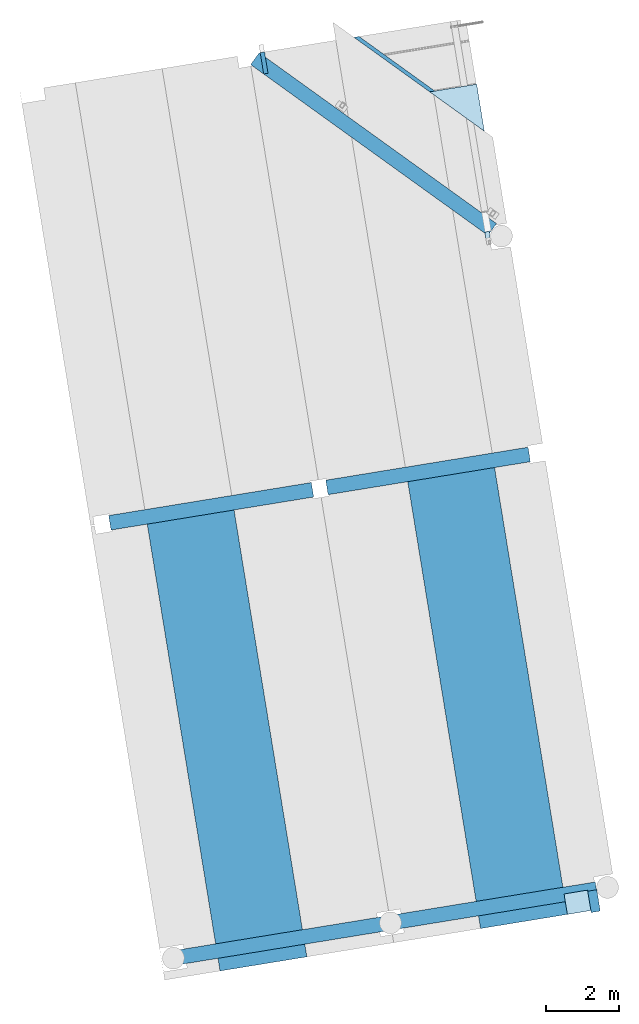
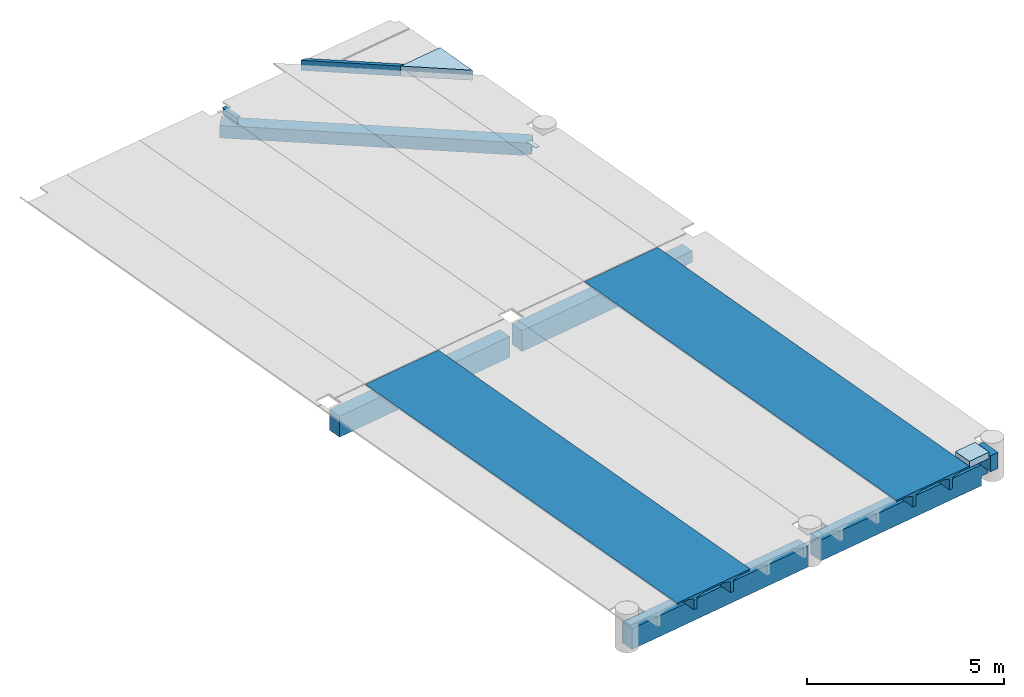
# One storey, part 3 of 5: 10 beams, 2 slabs, 1 plate.
"""IFC2X3 building model written with IfcOpenShell, lengths in millimetres."""

from ifc_helpers import new_model, entity, si_unit, converted_unit, derived_unit, direction, frame, frame_2d, origin, origin_with_axes, origin_2d_with_axis, place, context, subcontext, project, spatial, polyline, rectangle, outline, extrude, faceted_brep, material, type_object, element, save


model = new_model("IFC2X3")

# Units and contexts
model_context = context("Model", 3, precision=0.01, world=origin(), true_north=direction((6.12323399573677e-17, 1.0)))
plan_context = context("Plan", 3, precision=1e-05, world=origin_with_axes())
body_context = subcontext(model_context, "Body", "Model", "MODEL_VIEW")
ifc_project = project(units=[converted_unit("PLANEANGLEUNIT", "DEGREE", entity("IfcPositiveLengthMeasure", 0.0174532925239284), si_unit("PLANEANGLEUNIT", "RADIAN"), dimensions=[0, 0, 0, 0, 0, 0, 0]), si_unit("AREAUNIT", "SQUARE_METRE"), si_unit("LENGTHUNIT", "METRE", prefix="MILLI"), si_unit("MASSUNIT", "GRAM", prefix="KILO"), si_unit("POWERUNIT", "WATT"), si_unit("PRESSUREUNIT", "PASCAL", prefix="KILO"), si_unit("FORCEUNIT", "NEWTON", prefix="KILO"), si_unit("ELECTRICVOLTAGEUNIT", "VOLT"), si_unit("ELECTRICCURRENTUNIT", "AMPERE"), si_unit("THERMODYNAMICTEMPERATUREUNIT", "DEGREE_CELSIUS"), si_unit("TIMEUNIT", "SECOND"), si_unit("VOLUMEUNIT", "CUBIC_METRE"), derived_unit("LINEARVELOCITYUNIT", [(si_unit("LENGTHUNIT", "METRE"), 1), (si_unit("TIMEUNIT", "SECOND"), -1)]), derived_unit("VOLUMETRICFLOWRATEUNIT", [(si_unit("VOLUMEUNIT", "CUBIC_METRE"), 1), (si_unit("TIMEUNIT", "SECOND"), -1)]), derived_unit("THERMALTRANSMITTANCEUNIT", [(si_unit("POWERUNIT", "WATT"), 1), (si_unit("THERMODYNAMICTEMPERATUREUNIT", "KELVIN"), -1), (si_unit("AREAUNIT", "SQUARE_METRE"), -1)]), derived_unit("SOUNDPRESSUREUNIT", [(si_unit("PRESSUREUNIT", "PASCAL"), 1)])], contexts=[model_context, plan_context])

# Site, building, storey
site_placement = place(None, frame((5.09380697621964e-08, 5.80416781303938e-08, 0.0), z_axis=(0.0, 0.0, 1.0), x_axis=(-0.160806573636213, 0.986985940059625, 0.0)))
site = spatial("IfcSite", under=ifc_project, at=site_placement, Name="Default", CompositionType="ELEMENT")
building_placement = place(site_placement, frame((0.0, 0.0, 0.0), z_axis=(0.0, 0.0, 1.0), x_axis=(1.0, -2.77555756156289e-17, 0.0)))
building = spatial("IfcBuilding", under=site, at=building_placement, CompositionType="ELEMENT")
storey_placement = place(building_placement, frame((0.0, 0.0, 51360.0000000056), z_axis=(0.0, 0.0, 1.0), x_axis=(1.0, -2.77555756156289e-17, 0.0)))
storey = spatial("IfcBuildingStorey", under=building, at=storey_placement, Name="H01-Nivå D+0,36", CompositionType="ELEMENT", Elevation=51360.0000000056)

# Beams
ifc_material_1 = material(Name="CONCRETE/C55/67 171016")
beam_type_1 = type_object("IfcBeamType", Name="650*400", PredefinedType="NOTDEFINED")
beam_1_placement = place(storey_placement, frame((0.0, 0.0, 0.0), z_axis=(0.0, 0.0, 1.0), x_axis=(1.0, -2.77555756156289e-17, 0.0)))
element("IfcBeam", 1, at=beam_1_placement, inside=storey, type_object=beam_type_1, material=ifc_material_1, Name="PLASSTØPTBJELKE", ObjectType="650*400", context=body_context, shape_type="SweptSolid", body=[
    extrude(rectangle(XDim=650.000000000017, YDim=5599.99995658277, at=frame_2d((-4.32009983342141e-12, 3.47881723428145e-11), x_axis=(1.0, 0.0))), frame((1004438.54279957, -387380.276220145, 3204.99999999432), z_axis=(1.0, 4.26751171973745e-06, 0.0), x_axis=(0.0, 0.0, -1.0)), (0.0, 0.0, 1.0), 400.000000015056),
])
beam_2_placement = place(storey_placement, frame((1004438.5573653, -396170.276792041, 2879.99999999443), z_axis=(0.0, 0.0, 1.0), x_axis=(1.0, -2.77555756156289e-17, 0.0)))
element("IfcBeam", 2, at=beam_2_placement, inside=storey, type_object=beam_type_1, material=ifc_material_1, Name="PLASSTØPTBJELKE", ObjectType="650*400", context=body_context, shape_type="Brep", body=[
    faceted_brep([(0.0230012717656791, 199.999999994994, 300.0), (0.0230012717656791, 199.999999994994, 0.0), (400.023001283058, 200.001707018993, 0.0), (400.023001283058, 200.001707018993, 300.0), (400.023854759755, 0.00229956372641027, 300.0), (0.0238547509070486, 0.0, 300.0), (400.000000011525, 5590.00225705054, 0.0), (0.0, 5590.00055005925, 0.0), (0.0, 5590.00055005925, 650.0), (400.000000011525, 5590.00225705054, 650.0), (400.023854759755, 0.00229956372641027, 650.0), (0.0238547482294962, 0.000592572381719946, 650.0)], [[[0, 1, 2, 3]], [[4, 5, 0, 3]], [[6, 7, 8, 9]], [[10, 9, 8, 11]], [[4, 10, 11, 5]], [[3, 2, 6, 9, 10, 4]], [[1, 7, 6, 2]], [[5, 11, 8, 7, 1, 0]]]),
])
beam_3_placement = place(storey_placement, frame((992438.557364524, -396070.329820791, 2879.99999999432), z_axis=(0.0, 0.0, 1.0), x_axis=(1.0, -2.77555756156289e-17, 0.0)))
element("IfcBeam", 3, at=beam_3_placement, inside=storey, type_object=beam_type_1, material=ifc_material_1, Name="PLASSTØPTBJELKE", ObjectType="650*400", context=body_context, shape_type="Brep", body=[
    faceted_brep([(0.0225745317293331, 199.999999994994, 300.0), (0.0225745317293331, 199.999999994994, 0.0), (400.022574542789, 200.00170701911, 0.0), (400.022574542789, 200.00170701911, 300.0), (400.023428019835, 0.00228896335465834, 300.0), (0.0234280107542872, 0.0, 300.0), (400.000000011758, 5490.00225704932, 0.0), (0.0, 5490.00055005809, 0.0), (0.0, 5490.00055005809, 650.0), (400.000000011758, 5490.00225704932, 650.0), (400.023428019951, 0.00228896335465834, 650.0), (0.0234280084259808, 0.000581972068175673, 650.0)], [[[0, 1, 2, 3]], [[4, 5, 0, 3]], [[6, 7, 8, 9]], [[10, 9, 8, 11]], [[4, 10, 11, 5]], [[3, 2, 6, 9, 10, 4]], [[1, 7, 6, 2]], [[5, 11, 8, 7, 1, 0]]]),
])
beam_4_placement = place(storey_placement, frame((0.0, 0.0, 0.0), z_axis=(0.0, 0.0, 1.0), x_axis=(1.0, -2.77555756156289e-17, 0.0)))
element("IfcBeam", 4, at=beam_4_placement, inside=storey, type_object=beam_type_1, material=ifc_material_1, Name="PLASSTØPTBJELKE", ObjectType="650*400", context=body_context, shape_type="SweptSolid", body=[
    extrude(rectangle(XDim=650.000000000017, YDim=5799.99993538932, at=frame_2d((-4.32009983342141e-12, -3.47881723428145e-11), x_axis=(1.0, 0.0))), frame((992438.542341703, -387280.329238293, 3204.99999999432), z_axis=(1.0, 4.26751176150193e-06, 0.0), x_axis=(0.0, 0.0, -1.0)), (0.0, 0.0, 1.0), 400.000000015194),
])
beam_5_placement = place(storey_placement, frame((1010716.36259424, -396302.464969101, 2879.99999999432), z_axis=(0.0, 0.0, 1.0), x_axis=(1.0, -2.77555756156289e-17, 0.0)))
element("IfcBeam", 5, at=beam_5_placement, inside=storey, type_object=beam_type_1, Name="PLASSTØPTBJELKE", ObjectType="650*400", context=body_context, shape_type="Brep", body=[
    faceted_brep([(424.264649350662, 141.421188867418, 260.000000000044), (141.420735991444, 424.262700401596, 260.000000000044), (141.420735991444, 424.262700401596, 300.0), (424.264649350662, 141.421188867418, 300.0), (0.0, 282.840723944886, 300.0), (282.844950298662, 0.000249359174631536, 300.0), (5639.35117759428, 5922.24136688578, 260.000000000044), (5922.00504877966, 5639.5899749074, 260.000000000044), (5922.00504877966, 5639.5899749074, 650.0), (5639.35117759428, 5922.24136688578, 650.0), (5922.00504877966, 5639.20981143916, 650.0), (282.844950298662, 0.000249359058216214, 650.0), (0.000997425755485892, 282.841721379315, 650.0), (5922.00504877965, 5639.20981143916, 260.000000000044)], [[[0, 1, 2, 3]], [[3, 2, 4, 5]], [[6, 7, 8, 9]], [[8, 10, 11, 12, 9]], [[4, 12, 11, 5]], [[10, 7, 0, 3, 5, 11]], [[1, 6, 9, 12, 4, 2]], [[13, 10, 8]], [[13, 6, 1, 0]]], orient=[[False], [False], [False], [False], [False], [False], [False], [False], [False]]),
])
ifc_material_2 = material(Name="CONCRETE/C45/55")
beam_type_2 = type_object("IfcBeamType", Name="DT450*2400-100-50-1200-0-200-0.3", PredefinedType="NOTDEFINED")
beam_6_placement = place(storey_placement, frame((0.0, 0.0, 0.0), z_axis=(0.0, 0.0, 1.0), x_axis=(1.0, -2.77555756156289e-17, 0.0)))
element("IfcBeam", 6, at=beam_6_placement, inside=storey, type_object=beam_type_2, material=ifc_material_2, Name="DT", ObjectType="DT450*2400-100-50-1200-0-200-0.3", context=body_context, shape_type="SweptSolid", body=[
    extrude(outline(polyline([(-158.750000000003, -1200.00000001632), (-108.749999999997, -1200.00000001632), (-108.750000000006, -850.00000001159), (-48.7500000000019, -650.000000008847), (291.249999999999, -650.000000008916), (291.249999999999, -550.000000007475), (-48.7500000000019, -550.000000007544), (-108.750000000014, -350.000000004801), (-108.750000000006, 350.000000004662), (-48.7499999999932, 550.000000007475), (291.249999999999, 550.000000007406), (291.249999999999, 650.000000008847), (-48.7500000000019, 650.000000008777), (-108.750000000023, 850.000000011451), (-108.750000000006, 1200.00000001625), (-158.750000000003, 1200.00000001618), (-158.750000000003, -1200.00000001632)])), frame((992088.572389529, -393980.33084778, 3821.24999999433), z_axis=(1.0, 5.14803755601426e-06, 0.0), x_axis=(0.0, 0.0, -1.0)), (0.0, 0.0, 1.0), 12534.9974191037),
])
beam_7_placement = place(storey_placement, frame((0.0, 0.0, 0.0), z_axis=(0.0, 0.0, 1.0), x_axis=(1.0, -2.77555756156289e-17, 0.0)))
element("IfcBeam", 7, at=beam_7_placement, inside=storey, type_object=beam_type_2, material=ifc_material_2, Name="DT", ObjectType="DT450*2400-100-50-1200-0-200-0.3", context=body_context, shape_type="SweptSolid", body=[
    extrude(outline(polyline([(-158.750000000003, -1200.00000001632), (-108.749999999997, -1200.00000001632), (-108.750000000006, -850.000000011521), (-48.7499999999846, -650.000000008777), (291.249999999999, -650.000000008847), (291.249999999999, -550.000000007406), (-48.7500000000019, -550.000000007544), (-108.750000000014, -350.000000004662), (-108.750000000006, 350.000000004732), (-48.7499999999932, 550.000000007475), (291.249999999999, 550.000000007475), (291.249999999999, 650.000000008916), (-48.7500000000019, 650.000000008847), (-108.750000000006, 850.00000001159), (-108.750000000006, 1200.00000001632), (-158.750000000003, 1200.00000001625), (-158.750000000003, -1200.00000001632)])), frame((992088.5405718, -386780.330847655, 3821.24999999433), z_axis=(1.0, 5.14803755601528e-06, 0.0), x_axis=(0.0, 0.0, -1.0)), (0.0, 0.0, 1.0), 12534.9974191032),
])
beam_type_3 = type_object("IfcBeamType", Name="500*250", PredefinedType="NOTDEFINED")
beam_8_placement = place(storey_placement, frame((0.0, 0.0, 0.0), z_axis=(0.0, 0.0, 1.0), x_axis=(1.0, -2.77555756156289e-17, 0.0)))
element("IfcBeam", 8, at=beam_8_placement, inside=storey, type_object=beam_type_3, Name="PLASSTØPTBJELKE", ObjectType="500*250", context=body_context, shape_type="Brep", body=[
    faceted_brep([(992034.867643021, -396080.331085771, 4040.00000001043), (992034.867643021, -395830.331085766, 4040.00000001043), (992623.580564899, -395830.328483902, 4040.00000001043), (992623.581669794, -396080.328483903, 4040.00000001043), (992034.867643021, -396080.331085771, 3540.0), (992623.581669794, -396080.328483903, 3540.0), (992034.867643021, -395830.331085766, 3540.0), (992623.580564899, -395830.328483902, 3540.0)], [[[0, 1, 2, 3]], [[4, 0, 3, 5]], [[6, 4, 5, 7]], [[1, 6, 7, 2]], [[3, 2, 7, 5]], [[4, 6, 1, 0]]], orient=[[False], [False], [False], [False], [False], [False]]),
])
beam_type_4 = type_object("IfcBeamType", Name="IPE400", PredefinedType="NOTDEFINED")
beam_9_placement = place(storey_placement, frame((1016048.5578303, -390810.224966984, 3394.99999999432), z_axis=(0.0, 0.0, 1.0), x_axis=(1.0, -2.77555756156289e-17, 0.0)))
element("IfcBeam", 9, at=beam_9_placement, inside=storey, type_object=beam_type_4, Name="STÅLBJELKE", ObjectType="IPE400", context=body_context, shape_type="Brep", body=[
    faceted_brep([(589.80981272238, 120.003036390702, 386.499999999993), (589.80981272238, 120.003036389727, 400.0), (0.0, 119.999999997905, 400.0), (0.0, 119.999999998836, 386.499999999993), (589.810235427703, 0.00303634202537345, 386.5), (589.80981272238, 85.7030361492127, 386.5), (0.000176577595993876, 85.6999998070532, 386.5), (0.00061776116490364, 0.0, 386.5), (589.80981272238, 94.3030365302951, 165.0), (589.80981272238, 94.3030365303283, 386.499999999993), (0.000132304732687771, 94.3000001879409, 386.499999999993), (0.000132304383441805, 94.3000001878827, 165.0), (589.809824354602, 85.7030361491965, 165.0), (0.000176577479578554, 85.699999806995, 165.0), (589.80981272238, 0.00303633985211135, 400.0), (0.00061776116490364, 0.0, 400.0), (589.80981272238, 85.7030361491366, 165.0), (589.80981272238, 0.00303633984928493, 386.5)], [[[0, 1, 2, 3]], [[4, 5, 6, 7]], [[8, 9, 10, 11]], [[12, 8, 11, 13]], [[5, 12, 13, 6]], [[14, 4, 7, 15]], [[2, 15, 7, 6, 13, 11, 10, 3]], [[9, 0, 3, 10]], [[1, 14, 15, 2]], [[9, 8, 16, 5, 17, 14, 1, 0]]], orient=[[False], [False], [False], [False], [False], [False], [False], [False], [False], [False]]),
])
beam_type_5 = type_object("IfcBeamType", Name="315*100", PredefinedType="NOTDEFINED")
beam_10_placement = place(storey_placement, frame((1014838.57726357, -395221.652223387, 3799.99999999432), z_axis=(0.0, 0.0, 1.0), x_axis=(1.0, -2.77555756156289e-17, 0.0)))
element("IfcBeam", 10, at=beam_10_placement, inside=storey, type_object=beam_type_5, Name="PLASSTØPTDEKKE", ObjectType="315*100", context=body_context, shape_type="Brep", body=[
    faceted_brep([(1799.79037944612, 1941.22646659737, 0.0), (1799.79037944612, 1941.22646659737, 315.0), (0.0, 141.421365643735, 315.0), (0.0, 141.421365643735, 0.0), (1799.79073053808, 1799.80488307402, 315.0), (0.000568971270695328, 0.0, 315.0), (1799.79037944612, 1799.804531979, 0.0), (0.000568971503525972, 0.0, 0.0), (1799.79037944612, 1799.80453197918, 315.0)], [[[0, 1, 2, 3]], [[1, 4, 5, 2]], [[4, 6, 7, 5]], [[6, 0, 3, 7]], [[2, 5, 7, 3]], [[6, 8, 1, 0]]], orient=[[False], [False], [False], [False], [False], [False]]),
])

# Plate
plate_type = type_object("IfcPlateType", Name="PL20*120", PredefinedType="NOTDEFINED")
plate_placement = place(storey_placement, frame((0.0, 0.0, 0.0), z_axis=(0.0, 0.0, 1.0), x_axis=(1.0, -2.77555756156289e-17, 0.0)))
element("IfcPlate", 11, at=plate_placement, inside=storey, type_object=plate_type, Name="STÅLBJELKE", ObjectType="PL20*120", context=body_context, shape_type="SweptSolid", body=[
    extrude(rectangle(XDim=356.000000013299, YDim=120.000000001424, at=frame_2d((2.77213985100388e-09, -4.85137263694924e-10), x_axis=(1.0, 0.0))), frame((1010643.58131784, -396010.24872236, 3539.99999999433)), (0.0, 0.0, 1.0), 19.9999999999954),
])

# Slabs
slab_type_1 = type_object("IfcSlabType", Name="315*1300", PredefinedType="FLOOR")
slab_1_placement = place(storey_placement, frame((0.0, 0.0, 0.0), z_axis=(0.0, 0.0, 1.0), x_axis=(1.0, -2.77555756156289e-17, 0.0)))
element("IfcSlab", 12, at=slab_1_placement, inside=storey, type_object=slab_type_1, Name="PLASSTØPTDEKKE", ObjectType="315*1300", PredefinedType="FLOOR", context=body_context, shape_type="SweptSolid", body=[
    extrude(outline(polyline([(-433.333009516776, -433.33303824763), (866.666450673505, -433.33303824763), (-433.333441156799, 866.666076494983), (-433.333009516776, -433.33303824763)])), frame((1014405.24778435, -395946.899105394, 3799.99999999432), z_axis=(0.0, 0.0, 1.0), x_axis=(-4.11984102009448e-06, 1.0, 0.0)), (0.0, 0.0, 1.0), 315.000000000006),
])
slab_type_2 = type_object("IfcSlabType", Name="200*565", PredefinedType="FLOOR")
slab_2_placement = place(storey_placement, frame((0.0, 0.0, 0.0), z_axis=(0.0, 0.0, 1.0), x_axis=(1.0, -2.77555756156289e-17, 0.0)))
element("IfcSlab", 13, at=slab_2_placement, inside=storey, type_object=slab_type_2, Name="PLASSTØPTDEKKE", ObjectType="200*565", PredefinedType="FLOOR", context=body_context, shape_type="SweptSolid", body=[
    extrude(rectangle(XDim=650.000000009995, YDim=565.00000002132, at=origin_2d_with_axis()), frame((992371.079079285, -395505.329587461, 3930.00010077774), z_axis=(1.65817948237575e-09, 3.08675980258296e-07, 1.0), x_axis=(-4.26751183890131e-06, 1.0, -3.08675973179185e-07)), (0.0, 0.0, 1.0), 200.000000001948),
])

save(model, "model.ifc")
